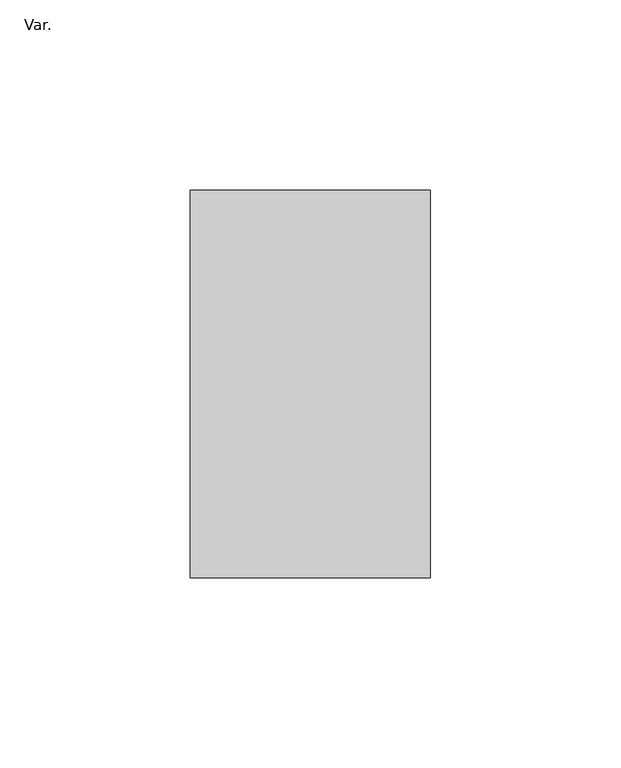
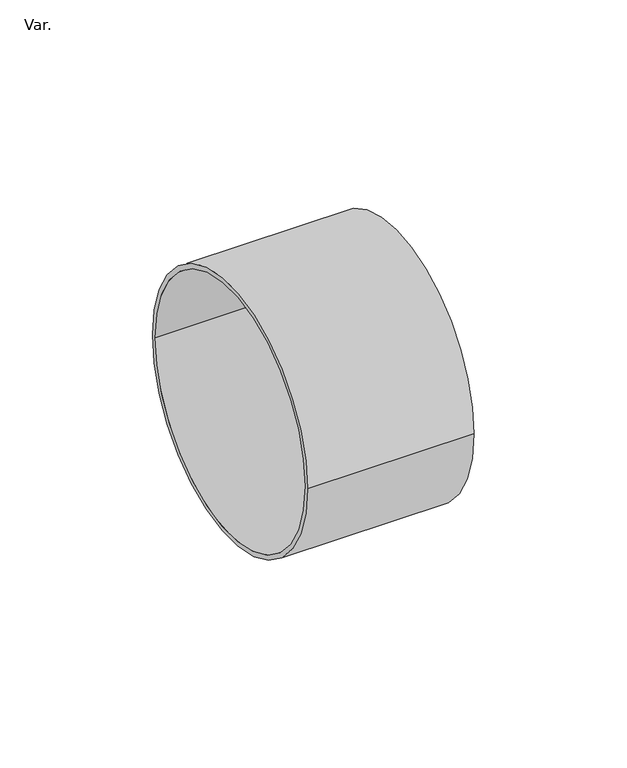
"""IFC4 building model written with IfcOpenShell, lengths in millimetres: pipe fitting geometry, AmancoWavin_ConexõesdeTubos_EsgotoZNãoUsarEsgotoCaixaSifProlongamento : Var.."""

from ifc_helpers import new_model, si_unit, point, frame, origin, origin_2d, place, context, project, spatial, circle_curve, trimmed, segment, composite_curve, outline, extrude, source, transform, mapped, element, save


def var_037d8761(model_context):
    return source(origin(), model_context, "Body", "SweptSolid", [
        extrude(outline(composite_curve([segment(trimmed(circle_curve(origin_2d(), 50.8), [point((-50.8, 0.0))], [point((50.8, 0.0))], False, "CARTESIAN"), True, "CONTINUOUS"), segment(trimmed(circle_curve(origin_2d(), 50.8), [point((50.8, 0.0))], [point((-50.8, 0.0))], False, "CARTESIAN"), True, "CONTINUOUS")], self_intersect=False), holes=[composite_curve([segment(trimmed(circle_curve(origin_2d(), 49.0), [point((-49.0, 0.0))], [point((49.0, 0.0))], True, "CARTESIAN"), True, "CONTINUOUS"), segment(trimmed(circle_curve(origin_2d(), 49.0), [point((49.0, 0.0))], [point((-49.0, 0.0))], True, "CARTESIAN"), True, "CONTINUOUS")], self_intersect=False)]), frame((0.0, 0.0, 0.0), z_axis=(1.0, 0.0, 0.0), x_axis=(0.0, 1.0, 0.0)), (0.0, 0.0, 1.0), 63.0),
    ])


if __name__ == "__main__":
    model = new_model("IFC4")
    model_context = context("Model", 3, world=origin())
    ifc_project = project(units=[si_unit("LENGTHUNIT", "METRE", prefix="MILLI")], contexts=[model_context])
    site = spatial("IfcSite", under=ifc_project)
    building = spatial("IfcBuilding", under=site)
    placement = place(None, origin())
    var_shape = var_037d8761(model_context)
    element("IfcPipeFitting", 1, ObjectType="AmancoWavin_ConexõesdeTubos_EsgotoZNãoUsarEsgotoCaixaSifProlongamento : Var.", at=placement, inside=building, context=model_context, shape_type="MappedRepresentation", body=[
        mapped(var_shape, transform((0.0, 0.0, 0.0), x_axis=(1.0, 0.0, 0.0), y_axis=(0.0, 1.0, 0.0), z_axis=(0.0, 0.0, 1.0))),
    ])
    save(model, "model.ifc")
